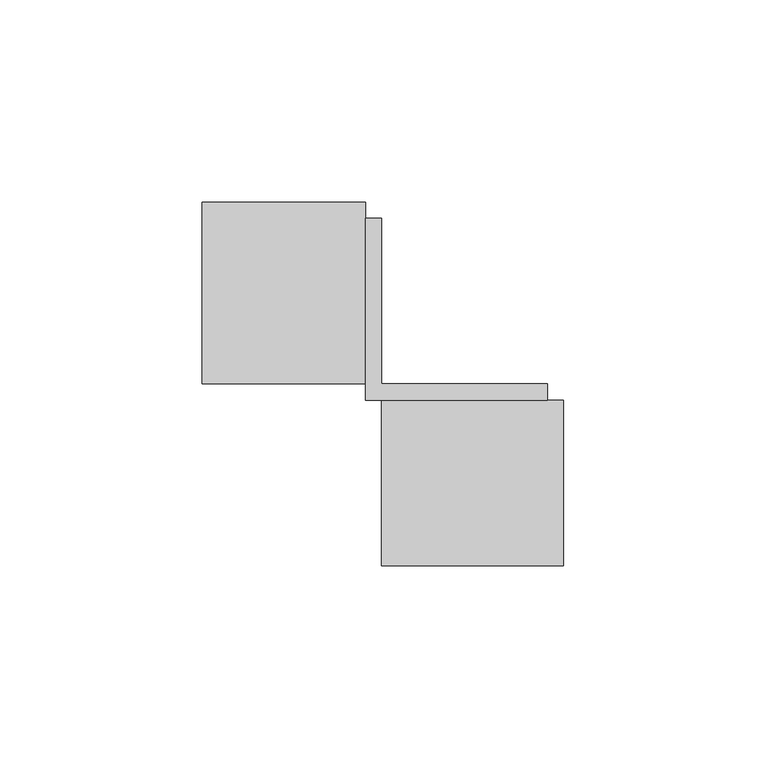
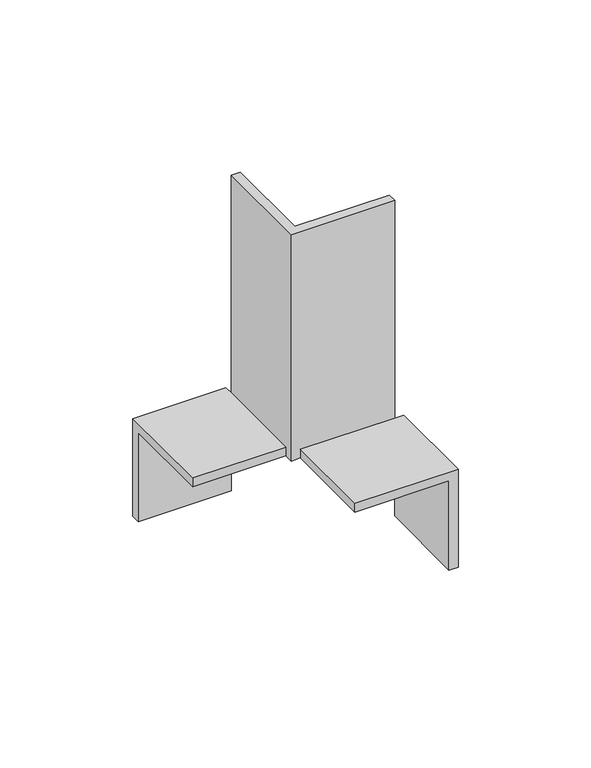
"""IFC4 building model written with IfcOpenShell, lengths in millimetres: proxy geometry, 4182J_Accessory-Basorfix : Basorfix 4182J GC70."""

from ifc_helpers import new_model, si_unit, origin, place, context, project, spatial, faceted_brep, source, transform, mapped, element, save


def generic_models_ffe3f2f8(model_context):
    return source(origin(), model_context, "Body", "Brep", [
        faceted_brep([(-65.0, 24.4842733, 4.0), (-65.0, -20.4842733, 4.0), (-24.5, -20.4842733, 4.0), (-24.5, 20.4842733, 4.0), (-24.5, 24.4842733, 4.0), (-20.5, -65.4842733, 4.0), (24.5, -65.4842733, 4.0), (24.5, -24.4842733, 4.0), (20.5, -24.4842733, 4.0), (-20.5, -24.4842733, 4.0), (-20.5, -65.4842733, 0.0), (-20.5, -24.4842733, 0.0), (-24.5, -24.4842733, 0.0), (-24.5, -20.4842733, 0.0), (-65.0, -20.4842733, 0.0), (-65.0, 20.4842733, 0.0), (-24.5, 20.4842733, 0.0), (-20.5, 20.4842733, 0.0), (-20.5, -20.4842733, 0.0), (20.5, -20.4842733, 0.0), (20.5, -24.4842733, 0.0), (20.5, -65.4842733, 0.0), (-65.0, 24.4842733, -41.0), (-65.0, 20.4842733, -41.0), (20.5, -65.4842733, -41.0), (24.5, -65.4842733, -41.0), (24.5, -24.4842733, -41.0), (20.5, -20.4842733, 104.0), (-20.5, -20.4842733, 104.0), (-20.5, 20.4842733, 104.0), (-24.5, 20.4842733, 104.0), (-24.5, -24.4842733, 104.0), (20.5, -24.4842733, 104.0), (-24.5, 24.4842733, -41.0), (-24.5, 20.4842733, -41.0), (20.5, -24.4842733, -41.0)], [[[0, 1, 2, 3, 4]], [[5, 6, 7, 8, 9]], [[10, 11, 12, 13, 14, 15, 16, 17, 18, 19, 20, 21]], [[1, 0, 22, 23, 15, 14]], [[2, 1, 14, 13]], [[6, 5, 10, 21, 24, 25]], [[7, 6, 25, 26]], [[27, 28, 29, 30, 31, 32]], [[19, 18, 28, 27]], [[32, 31, 12, 11, 9, 8]], [[31, 30, 3, 2, 13, 12]], [[5, 9, 11, 10]], [[18, 17, 29, 28]], [[33, 34, 23, 22]], [[26, 25, 24, 35]], [[23, 34, 16, 15]], [[35, 24, 21, 20]], [[7, 26, 35, 20, 8]], [[17, 16, 3, 30, 29]], [[4, 3, 16, 34, 33]], [[20, 19, 27, 32, 8]], [[22, 0, 4, 33]]]),
    ])


if __name__ == "__main__":
    model = new_model("IFC4")
    model_context = context("Model", 3, world=origin())
    ifc_project = project(units=[si_unit("LENGTHUNIT", "METRE", prefix="MILLI")], contexts=[model_context])
    site = spatial("IfcSite", under=ifc_project)
    building = spatial("IfcBuilding", under=site)
    placement = place(None, origin())
    generic_models_shape = generic_models_ffe3f2f8(model_context)
    element("IfcBuildingElementProxy", 1, Name="4182J_Accessory-Basorfix : Basorfix 4182J GC70", ObjectType="4182J_Accessory-Basorfix : Basorfix 4182J GC70", at=placement, inside=building, context=model_context, shape_type="MappedRepresentation", body=[
        mapped(generic_models_shape, transform((0.0, 0.0, 0.0), x_axis=(1.0, 0.0, 0.0), y_axis=(0.0, 1.0, 0.0), z_axis=(0.0, 0.0, 1.0))),
    ])
    save(model, "model.ifc")
